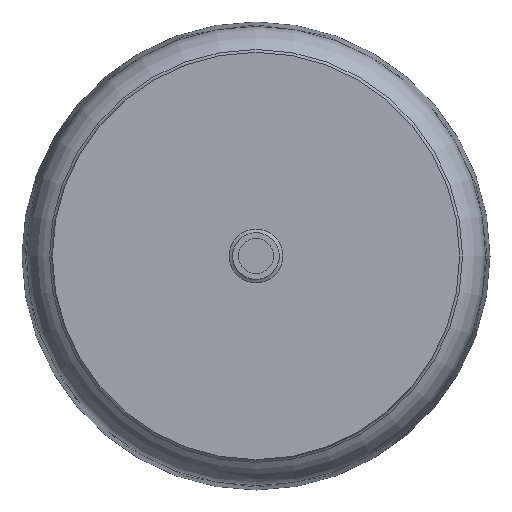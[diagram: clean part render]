
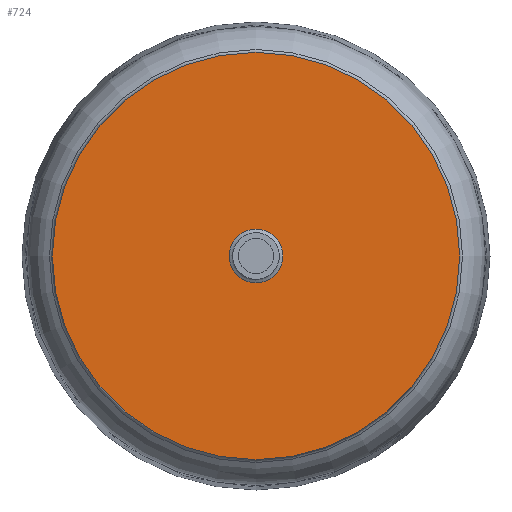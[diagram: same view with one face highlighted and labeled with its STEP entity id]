
A CAD part, front view. The second image highlights one B-rep face of the part: STEP entity #724.
In plain terms, the highlighted planar face has unit normal (0, -1, 0).
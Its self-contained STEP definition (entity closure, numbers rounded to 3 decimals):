
#19 = FACE_BOUND ( 'NONE', #31, .T. ) ;
#31 = EDGE_LOOP ( 'NONE', ( #36 ) ) ;
#36 = ORIENTED_EDGE ( 'NONE', *, *, #825, .F. ) ;
#71 = CIRCLE ( 'NONE', #707, 174. ) ;
#86 = AXIS2_PLACEMENT_3D ( 'NONE', #296, #507, #572 ) ;
#93 = DIRECTION ( 'NONE',  ( 0., 0., -1. ) ) ;
#100 = AXIS2_PLACEMENT_3D ( 'NONE', #419, #357, #101 ) ;
#101 = DIRECTION ( 'NONE',  ( 0., 0., -1. ) ) ;
#155 = CARTESIAN_POINT ( 'NONE',  ( 0., -3., -23. ) ) ;
#228 = PLANE ( 'NONE',  #100 ) ;
#285 = FACE_OUTER_BOUND ( 'NONE', #360, .T. ) ;
#287 = ORIENTED_EDGE ( 'NONE', *, *, #676, .T. ) ;
#296 = CARTESIAN_POINT ( 'NONE',  ( 0., -3., 0. ) ) ;
#357 = DIRECTION ( 'NONE',  ( 0., -1., 0. ) ) ;
#360 = EDGE_LOOP ( 'NONE', ( #287 ) ) ;
#419 = CARTESIAN_POINT ( 'NONE',  ( 0., -3., 0. ) ) ;
#455 = CIRCLE ( 'NONE', #86, 23. ) ;
#507 = DIRECTION ( 'NONE',  ( 0., -1., 0. ) ) ;
#572 = DIRECTION ( 'NONE',  ( 0., 0., -1. ) ) ;
#633 = CARTESIAN_POINT ( 'NONE',  ( 0., -3., -174. ) ) ;
#667 = CARTESIAN_POINT ( 'NONE',  ( 0., -3., 0. ) ) ;
#676 = EDGE_CURVE ( 'NONE', #817, #817, #71, .T. ) ;
#707 = AXIS2_PLACEMENT_3D ( 'NONE', #667, #738, #93 ) ;
#724 = ADVANCED_FACE ( 'NONE', ( #19, #285 ), #228, .T. ) ;
#738 = DIRECTION ( 'NONE',  ( 0., -1., 0. ) ) ;
#817 = VERTEX_POINT ( 'NONE', #633 ) ;
#825 = EDGE_CURVE ( 'NONE', #827, #827, #455, .T. ) ;
#827 = VERTEX_POINT ( 'NONE', #155 ) ;
